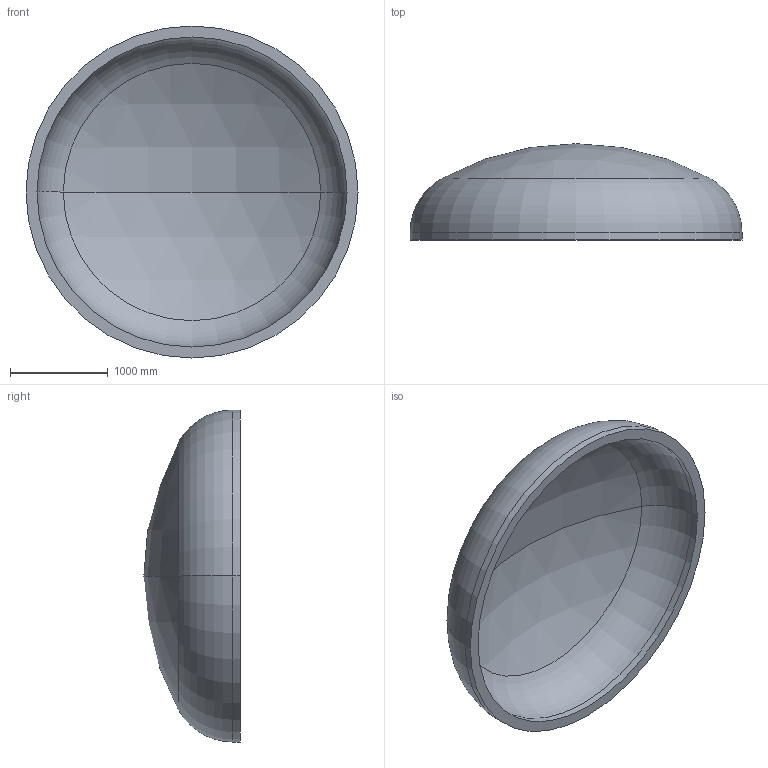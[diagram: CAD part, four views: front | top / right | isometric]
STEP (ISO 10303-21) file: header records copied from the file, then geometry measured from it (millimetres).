
FILE_DESCRIPTION (( 'STEP AP203' ), '1' );
FILE_NAME ('DIN 28013 Korbbogenform_-_Boden DIN 28013 - 3400 x 75 - I - s=112.step', '2016-07-01T19:56:28', ( '' ), ( '' ), 'SwSTEP 2.0', 'SolidWorks 2013', '' );
FILE_SCHEMA (( 'CONFIG_CONTROL_DESIGN' ));
Length unit declared in the file: millimetre
Products named in the file (1): DIN 28013 Korbbogenform_-_Boden DIN 28013 - 3400 x 75 - I - s=112
Bounding box: 3400 x 986.57 x 3400 mm (x, y, z)
Volume: 1436663590.1 mm3; surface area: 26837880.9 mm2
Topology: 1 solids, 1 shells, 13 faces, 24 edges, 14 vertices
Faces by surface type: torus 4, cylinder 4, sphere 4, plane 1
Entity records: 407 total; most frequent: DIRECTION 72, CARTESIAN_POINT 52, ORIENTED_EDGE 48, AXIS2_PLACEMENT_3D 34, EDGE_CURVE 24, CIRCLE 20, EDGE_LOOP 14, VERTEX_POINT 14
